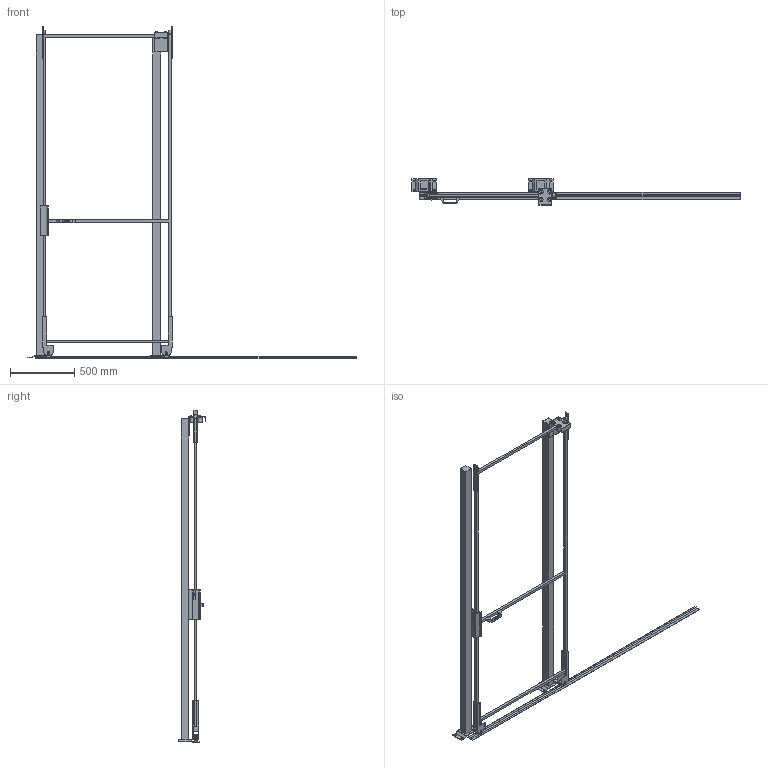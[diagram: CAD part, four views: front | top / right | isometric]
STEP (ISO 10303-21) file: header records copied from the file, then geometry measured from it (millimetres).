
FILE_DESCRIPTION(/* description */ (''),/* implementation_level */ '2;1');
FILE_NAME(/* name */ 'C:\SafeGuarding\ELABORATI\Drawing5_2025-05-05-13-40-48.stp',/* time_stamp */ '2025-05-05T13:40:51+02:00',/* author */ ('admin'),/* organization */ (''),/* preprocessor_version */ 'ST-DEVELOPER v18.1',/* originating_system */ 'AutoCAD Mechanical',/* authorisation */ '');
FILE_SCHEMA (('AUTOMOTIVE_DESIGN { 1 0 10303 214 3 1 1 }'));
Length unit declared in the file: millimetre
Products named in the file (3): Product; VFPA.REPE2010002400; P_VFMA.V260SDU.2520
Assembly tree (3 placements, depth 2):
  Product
    VFPA.REPE2010002400
    P_VFMA.V260SDU.2520  x2
Bounding box: 2561.01 x 210.01 x 2590 mm (x, y, z)
Volume: 23456482.1 mm3; surface area: 2985044.1 mm2
Topology: 29 solids, 40 shells, 321 faces, 1032 edges, 961 vertices
Faces by surface type: plane 275, cylinder 40, cone 4, sphere 2
Full cylindrical faces by diameter (mm): 9 x4, 11 x8, 13 x4, 18 x4, 30 x2, 36 x4, 58 x4
Entity records: 10575 total; most frequent: CARTESIAN_POINT 2262, DIRECTION 1612, ORIENTED_EDGE 1478, EDGE_CURVE 788, LINE 714, VECTOR 714, VERTEX_POINT 566, AXIS2_PLACEMENT_3D 449
